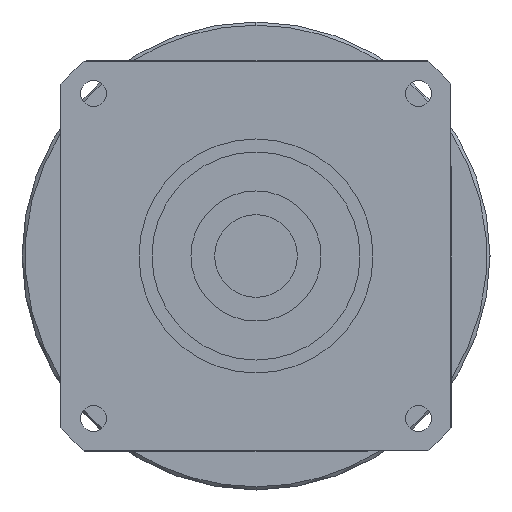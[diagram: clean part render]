
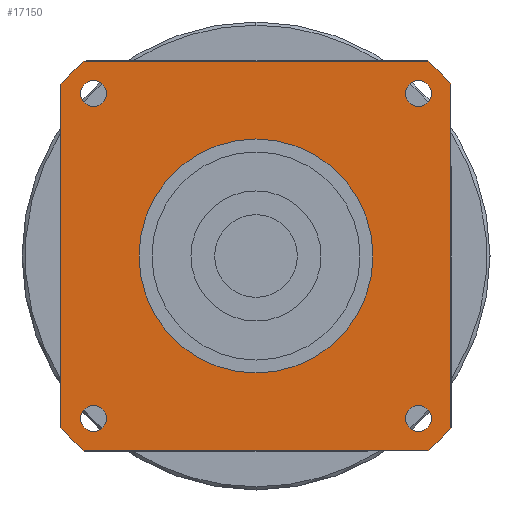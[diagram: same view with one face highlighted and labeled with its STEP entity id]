
A CAD part, left-side view. The second image highlights one B-rep face of the part: STEP entity #17150.
In plain terms, the highlighted planar face has unit normal (-1, 0, 0) as drawn and (0, 0, -1) by its records, which use the part's own axes.
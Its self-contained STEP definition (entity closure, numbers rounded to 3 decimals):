
#12210=CARTESIAN_POINT('',(-26.458,-30.,-95.));
#12220=VERTEX_POINT('',#12210);
#12450=CARTESIAN_POINT('',(26.458,-30.,-95.));
#12460=VERTEX_POINT('',#12450);
#12490=CARTESIAN_POINT('',(-30.,-30.,-95.));
#12500=DIRECTION('',(1.,0.,0.));
#12510=VECTOR('',#12500,1000.);
#12520=LINE('',#12490,#12510);
#12530=EDGE_CURVE('',#12220,#12460,#12520,.T.);
#12690=CARTESIAN_POINT('',(26.458,30.,-95.));
#12700=VERTEX_POINT('',#12690);
#12730=CARTESIAN_POINT('',(0.,0.,
-95.));
#12740=DIRECTION('',(0.,0.,1.));
#12750=DIRECTION('',(0.,-1.,0.));
#12760=AXIS2_PLACEMENT_3D('',#12730,#12740,#12750);
#12770=CIRCLE('',#12760,40.);
#12780=CARTESIAN_POINT('',(30.,26.458,-95.));
#12790=VERTEX_POINT('',#12780);
#12800=EDGE_CURVE('',#12790,#12700,#12770,.T.);
#15260=CARTESIAN_POINT('',(30.,-26.458,-95.));
#15270=VERTEX_POINT('',#15260);
#15300=CARTESIAN_POINT('',(0.,0.,
-95.));
#15310=DIRECTION('',(0.,0.,1.));
#15320=DIRECTION('',(0.,-1.,0.));
#15330=AXIS2_PLACEMENT_3D('',#15300,#15310,#15320);
#15340=CIRCLE('',#15330,40.);
#15350=EDGE_CURVE('',#12460,#15270,#15340,.T.);
#15490=CARTESIAN_POINT('',(23.,25.,-95.));
#15500=VERTEX_POINT('',#15490);
#15670=CARTESIAN_POINT('',(27.,25.,-95.));
#15680=VERTEX_POINT('',#15670);
#15710=CARTESIAN_POINT('',(25.,25.,-95.));
#15720=DIRECTION('',(0.,0.,-1.));
#15730=DIRECTION('',(0.,1.,0.));
#15740=AXIS2_PLACEMENT_3D('',#15710,#15720,#15730);
#15750=CIRCLE('',#15740,2.);
#15760=CARTESIAN_POINT('',(25.,27.,-95.));
#15770=VERTEX_POINT('',#15760);
#15780=EDGE_CURVE('',#15770,#15680,#15750,.T.);
#15800=EDGE_CURVE('',#15500,#15770,#15750,.T.);
#15850=CARTESIAN_POINT('',(-30.,30.,-95.));
#15860=DIRECTION('',(0.,0.,1.));
#15870=DIRECTION('',(-1.,0.,0.));
#15880=AXIS2_PLACEMENT_3D('',#15850,#15860,#15870);
#15890=PLANE('',#15880);
#15900=CARTESIAN_POINT('',(25.,-25.,-95.));
#15910=DIRECTION('',(0.,0.,-1.));
#15920=DIRECTION('',(1.,0.,0.));
#15930=AXIS2_PLACEMENT_3D('',#15900,#15910,#15920);
#15940=CIRCLE('',#15930,2.);
#15950=CARTESIAN_POINT('',(27.,-25.,-95.));
#15960=VERTEX_POINT('',#15950);
#15970=CARTESIAN_POINT('',(25.,-27.,-95.));
#15980=VERTEX_POINT('',#15970);
#15990=EDGE_CURVE('',#15960,#15980,#15940,.T.);
#16000=ORIENTED_EDGE('',*,*,#15990,.F.);
#16010=CARTESIAN_POINT('',(25.,-23.,-95.));
#16020=VERTEX_POINT('',#16010);
#16030=EDGE_CURVE('',#15980,#16020,#15940,.T.);
#16040=ORIENTED_EDGE('',*,*,#16030,.F.);
#16050=EDGE_CURVE('',#16020,#15960,#15940,.T.);
#16060=ORIENTED_EDGE('',*,*,#16050,.F.);
#16070=EDGE_LOOP('',(#16060,#16040,#16000));
#16080=FACE_BOUND('',#16070,.T.);
#16090=ORIENTED_EDGE('',*,*,#15780,.F.);
#16100=EDGE_CURVE('',#15680,#15500,#15750,.T.);
#16110=ORIENTED_EDGE('',*,*,#16100,.F.);
#16120=ORIENTED_EDGE('',*,*,#15800,.F.);
#16130=EDGE_LOOP('',(#16120,#16110,#16090));
#16140=FACE_BOUND('',#16130,.T.);
#16150=CARTESIAN_POINT('',(-25.,25.,-95.));
#16160=DIRECTION('',(0.,0.,-1.));
#16170=DIRECTION('',(-1.,0.,0.));
#16180=AXIS2_PLACEMENT_3D('',#16150,#16160,#16170);
#16190=CIRCLE('',#16180,2.);
#16200=CARTESIAN_POINT('',(-27.,25.,-95.));
#16210=VERTEX_POINT('',#16200);
#16220=CARTESIAN_POINT('',(-25.,27.,-95.));
#16230=VERTEX_POINT('',#16220);
#16240=EDGE_CURVE('',#16210,#16230,#16190,.T.);
#16250=ORIENTED_EDGE('',*,*,#16240,.F.);
#16260=CARTESIAN_POINT('',(-25.,23.,-95.));
#16270=VERTEX_POINT('',#16260);
#16280=EDGE_CURVE('',#16230,#16270,#16190,.T.);
#16290=ORIENTED_EDGE('',*,*,#16280,.F.);
#16300=EDGE_CURVE('',#16270,#16210,#16190,.T.);
#16310=ORIENTED_EDGE('',*,*,#16300,.F.);
#16320=EDGE_LOOP('',(#16310,#16290,#16250));
#16330=FACE_BOUND('',#16320,.T.);
#16340=CARTESIAN_POINT('',(-25.,-25.,-95.));
#16350=DIRECTION('',(0.,0.,-1.));
#16360=DIRECTION('',(0.,-1.,0.));
#16370=AXIS2_PLACEMENT_3D('',#16340,#16350,#16360);
#16380=CIRCLE('',#16370,2.);
#16390=CARTESIAN_POINT('',(-25.,-27.,-95.));
#16400=VERTEX_POINT('',#16390);
#16410=CARTESIAN_POINT('',(-27.,-25.,-95.));
#16420=VERTEX_POINT('',#16410);
#16430=EDGE_CURVE('',#16400,#16420,#16380,.T.);
#16440=ORIENTED_EDGE('',*,*,#16430,.F.);
#16450=CARTESIAN_POINT('',(-23.,-25.,-95.));
#16460=VERTEX_POINT('',#16450);
#16470=EDGE_CURVE('',#16420,#16460,#16380,.T.);
#16480=ORIENTED_EDGE('',*,*,#16470,.F.);
#16490=EDGE_CURVE('',#16460,#16400,#16380,.T.);
#16500=ORIENTED_EDGE('',*,*,#16490,.F.);
#16510=EDGE_LOOP('',(#16500,#16480,#16440));
#16520=FACE_BOUND('',#16510,.T.);
#16530=CARTESIAN_POINT('',(0.,0.,
-95.));
#16540=DIRECTION('',(0.,0.,1.));
#16550=DIRECTION('',(0.,-1.,0.));
#16560=AXIS2_PLACEMENT_3D('',#16530,#16540,#16550);
#16570=CIRCLE('',#16560,40.);
#16580=CARTESIAN_POINT('',(-30.,-26.458,-95.));
#16590=VERTEX_POINT('',#16580);
#16600=EDGE_CURVE('',#16590,#12220,#16570,.T.);
#16610=ORIENTED_EDGE('',*,*,#16600,.F.);
#16620=ORIENTED_EDGE('',*,*,#12530,.F.);
#16630=ORIENTED_EDGE('',*,*,#15350,.F.);
#16640=CARTESIAN_POINT('',(30.,-30.,-95.));
#16650=DIRECTION('',(0.,1.,0.));
#16660=VECTOR('',#16650,1000.);
#16670=LINE('',#16640,#16660);
#16680=EDGE_CURVE('',#15270,#12790,#16670,.T.);
#16690=ORIENTED_EDGE('',*,*,#16680,.F.);
#16700=ORIENTED_EDGE('',*,*,#12800,.F.);
#16710=CARTESIAN_POINT('',(30.,30.,-95.));
#16720=DIRECTION('',(-1.,0.,0.));
#16730=VECTOR('',#16720,1000.);
#16740=LINE('',#16710,#16730);
#16750=CARTESIAN_POINT('',(-26.458,30.,-95.));
#16760=VERTEX_POINT('',#16750);
#16770=EDGE_CURVE('',#12700,#16760,#16740,.T.);
#16780=ORIENTED_EDGE('',*,*,#16770,.F.);
#16790=CARTESIAN_POINT('',(0.,0.,
-95.));
#16800=DIRECTION('',(0.,0.,1.));
#16810=DIRECTION('',(0.,-1.,0.));
#16820=AXIS2_PLACEMENT_3D('',#16790,#16800,#16810);
#16830=CIRCLE('',#16820,40.);
#16840=CARTESIAN_POINT('',(-30.,26.458,-95.));
#16850=VERTEX_POINT('',#16840);
#16860=EDGE_CURVE('',#16760,#16850,#16830,.T.);
#16870=ORIENTED_EDGE('',*,*,#16860,.F.);
#16880=CARTESIAN_POINT('',(-30.,30.,-95.));
#16890=DIRECTION('',(0.,-1.,0.));
#16900=VECTOR('',#16890,1000.);
#16910=LINE('',#16880,#16900);
#16920=EDGE_CURVE('',#16850,#16590,#16910,.T.);
#16930=ORIENTED_EDGE('',*,*,#16920,.F.);
#16940=EDGE_LOOP('',(#16930,#16870,#16780,#16700,#16690,#16630,#16620,
#16610));
#16950=FACE_OUTER_BOUND('',#16940,.T.);
#16960=CARTESIAN_POINT('',(0.,0.,
-95.));
#16970=DIRECTION('',(0.,0.,1.));
#16980=DIRECTION('',(0.,-1.,0.));
#16990=AXIS2_PLACEMENT_3D('',#16960,#16970,#16980);
#17000=CIRCLE('',#16990,18.);
#17010=CARTESIAN_POINT('',(18.,0.,-95.));
#17020=VERTEX_POINT('',#17010);
#17030=CARTESIAN_POINT('',(-18.,0.,-95.));
#17040=VERTEX_POINT('',#17030);
#17050=EDGE_CURVE('',#17020,#17040,#17000,.T.);
#17060=ORIENTED_EDGE('',*,*,#17050,.T.);
#17070=CARTESIAN_POINT('',(0.,-18.,-95.));
#17080=VERTEX_POINT('',#17070);
#17090=EDGE_CURVE('',#17080,#17020,#17000,.T.);
#17100=ORIENTED_EDGE('',*,*,#17090,.T.);
#17110=EDGE_CURVE('',#17040,#17080,#17000,.T.);
#17120=ORIENTED_EDGE('',*,*,#17110,.T.);
#17130=EDGE_LOOP('',(#17120,#17100,#17060));
#17140=FACE_BOUND('',#17130,.T.);
#17150=ADVANCED_FACE('',(#16080,#16140,#16330,#16520,#16950,#17140),
#15890,.F.);
